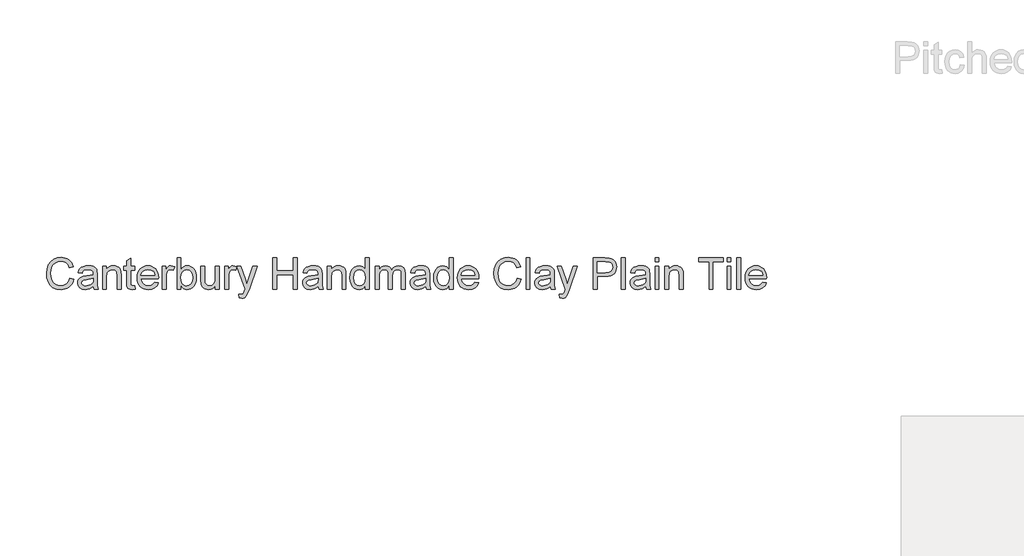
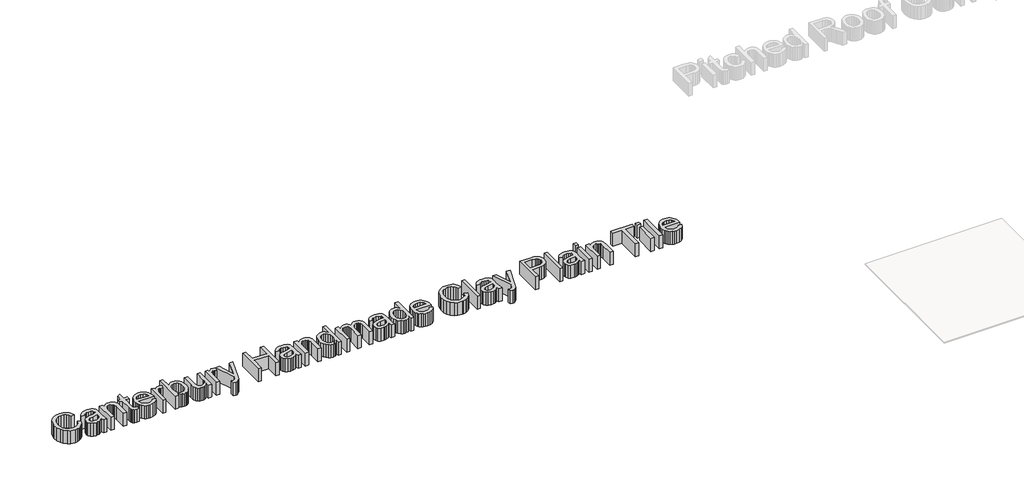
# One storey, part 2 of 3: 1 proxy.
"""IFC4 building model written with IfcOpenShell, lengths in millimetres."""

from ifc_helpers import new_model, si_unit, frame, origin, place, context, project, spatial, polyline, outline, extrude, element, save

model = new_model("IFC4")

# Units and contexts
model_context = context("Model", 3, world=origin())
ifc_project = project(units=[si_unit("LENGTHUNIT", "METRE", prefix="MILLI")], contexts=[model_context])

# Site, building, storey
site = spatial("IfcSite", under=ifc_project)
building = spatial("IfcBuilding", under=site)
storey = spatial("IfcBuildingStorey", under=building, Name="Marley Clay Plain Tile", Elevation=3000.0)

# Proxy
placement = place(None, origin())
element("IfcBuildingElementProxy", 1, Name="600mm Arial", ObjectType="600mm Arial", at=placement, inside=storey, context=model_context, shape_type="SweptSolid", body=[
    extrude(outline(polyline([(-18725.7542253, 5661.3306719), (-18688.8311484, 5651.8114412), (-18696.1373383, 5628.849452), (-18705.868408, 5608.7855998), (-18718.0243575, 5591.6198847), (-18732.6051868, 5577.3523066), (-18749.2818695, 5566.1361106), (-18767.7253791, 5558.1245421), (-18787.9357157, 5553.317601), (-18809.9128791, 5551.7152873), (-18852.7404032, 5556.5650469), (-18886.7518214, 5571.1143258), (-18912.821533, 5594.8583162), (-18931.8239368, 5627.2922104), (-18943.4254993, 5665.42322), (-18947.2926868, 5706.2585566), (-18942.9206916, 5749.32947), (-18929.8047061, 5786.5229796), (-18908.6298262, 5816.658196), (-18880.0811484, 5838.5542296), (-18846.2229753, 5851.8865614), (-18809.1196099, 5856.3306719), (-18768.6358359, 5850.57947), (-18751.0239068, 5843.3904676), (-18735.165283, 5833.3258642), (-18721.3213827, 5820.6515854), (-18709.7536243, 5805.6335566), (-18693.446533, 5768.5662489), (-18730.3696099, 5759.7681719), (-18743.1700907, 5786.6942537), (-18760.6580714, 5805.1648066), (-18783.0498984, 5815.8468979), (-18810.5619176, 5819.407595), (-18842.274658, 5815.4592777), (-18868.3263407, 5803.6143258), (-18888.0949705, 5785.1167296), (-18900.9585522, 5761.2104796), (-18908.0168455, 5734.1852392), (-18910.3696099, 5706.3306719), (-18907.5841532, 5672.220095), (-18899.227783, 5642.7249027), (-18884.9849945, 5618.9718979), (-18864.540283, 5602.0878835), (-18840.0300666, 5592.0007441), (-18813.5907637, 5588.6383642), (-18782.7704512, 5593.2176912), (-18757.0883599, 5606.9556719), (-18737.6983359, 5629.7080758), (-18725.7542253, 5661.3306719)])), frame((0.0, 0.0, 3000.0), z_axis=(0.0, 0.0, 1.0), x_axis=(1.0, 0.0, 0.0)), (0.0, 0.0, 1.0), 150.0),
    extrude(outline(polyline([(-18504.2157637, 5584.0229796), (-18521.8569897, 5568.8967777), (-18540.0210522, 5558.9989412), (-18559.1226147, 5553.5362008), (-18579.5763407, 5551.7152873), (-18610.4327109, 5556.0962969), (-18633.1941291, 5569.2393258), (-18647.2295859, 5589.1972585), (-18651.9080714, 5614.0229796), (-18650.1412445, 5629.32947), (-18644.8407637, 5643.2297104), (-18636.664682, 5655.1287489), (-18626.2710522, 5664.4316335), (-18600.4176868, 5676.5470181), (-18568.4705714, 5682.0999027), (-18530.7181676, 5687.9412489), (-18504.4321099, 5694.7922104), (-18504.2157637, 5703.0133642), (-18506.7578311, 5719.4917296), (-18514.384033, 5730.2729796), (-18531.4393214, 5738.2777873), (-18555.2013407, 5740.9460566), (-18577.196533, 5739.1702152), (-18592.5571099, 5733.8426912), (-18603.0318695, 5723.9899267), (-18610.3696099, 5708.6383642), (-18647.2926868, 5713.2537489), (-18640.883432, 5733.4460566), (-18631.3191291, 5749.3114412), (-18617.7073503, 5761.4448546), (-18599.1556676, 5770.4412489), (-18576.4663647, 5776.0121623), (-18550.4417253, 5777.8691335), (-18525.4807878, 5776.2285085), (-18505.6941291, 5771.3066335), (-18490.7752589, 5763.9057921), (-18480.4176868, 5754.8282681), (-18473.5486964, 5743.6053114), (-18469.0955714, 5729.7681719), (-18467.2926868, 5697.4604796), (-18467.2926868, 5651.5229796), (-18465.4176868, 5587.376345), (-18458.0619176, 5556.3306719), (-18494.9849945, 5556.3306719), (-18504.2157637, 5584.0229796)]), holes=[polyline([(-18504.2157637, 5657.8691335), (-18563.7830714, 5646.5470181), (-18595.5498984, 5640.5614412), (-18609.9369176, 5630.8258642), (-18614.9849945, 5616.6191335), (-18612.2355955, 5605.6395662), (-18603.9873984, 5596.6431719), (-18590.4206916, 5590.6395662), (-18571.7157637, 5588.6383642), (-18551.884033, 5590.8468979), (-18534.3599945, 5597.4724989), (-18520.1532637, 5607.2351191), (-18510.2734561, 5618.8547104), (-18505.8924464, 5630.8258642), (-18504.4321099, 5647.4124027), (-18504.2157637, 5657.8691335)])]), frame((0.0, 0.0, 3000.0), z_axis=(0.0, 0.0, 1.0), x_axis=(1.0, 0.0, 0.0)), (0.0, 0.0, 1.0), 150.0),
    extrude(outline(polyline([(-18416.5234561, 5556.3306719), (-18416.5234561, 5773.2537489), (-18379.6003791, 5773.2537489), (-18379.6003791, 5742.9652873), (-18366.7728551, 5758.23572), (-18351.3672061, 5769.1431719), (-18333.383432, 5775.6876431), (-18312.821533, 5777.8691335), (-18294.6214128, 5776.111321), (-18277.9537445, 5770.8378835), (-18264.0535041, 5762.7068739), (-18254.1556676, 5752.376345), (-18243.0859561, 5725.2249027), (-18241.1388407, 5689.5277873), (-18241.1388407, 5556.3306719), (-18278.0619176, 5556.3306719), (-18278.0619176, 5684.5518258), (-18282.3167253, 5717.220095), (-18288.2031436, 5726.9466575), (-18297.352783, 5734.4917296), (-18309.0805474, 5739.3324748), (-18322.7013407, 5740.9460566), (-18344.3269416, 5737.3222585), (-18362.7614368, 5726.4508642), (-18370.1284741, 5717.5761647), (-18375.3906436, 5705.4472585), (-18379.6003791, 5671.4268258), (-18379.6003791, 5556.3306719), (-18416.5234561, 5556.3306719)])), frame((0.0, 0.0, 3000.0), z_axis=(0.0, 0.0, 1.0), x_axis=(1.0, 0.0, 0.0)), (0.0, 0.0, 1.0), 150.0),
    extrude(outline(polyline([(-18111.9080714, 5587.1239412), (-18107.2926868, 5555.2489412), (-18134.9128791, 5551.7152873), (-18152.6352349, 5553.2477392), (-18165.8503791, 5557.845095), (-18175.1893214, 5564.9304316), (-18181.2830714, 5573.9268258), (-18184.6364368, 5589.3775469), (-18185.7542253, 5615.8258642), (-18185.7542253, 5736.3306719), (-18213.446533, 5736.3306719), (-18213.446533, 5773.2537489), (-18185.7542253, 5773.2537489), (-18185.7542253, 5825.970095), (-18148.8311484, 5847.6768258), (-18148.8311484, 5773.2537489), (-18111.9080714, 5773.2537489), (-18111.9080714, 5736.3306719), (-18148.8311484, 5736.3306719), (-18148.8311484, 5616.907595), (-18146.884033, 5597.8691335), (-18140.5739368, 5591.126345), (-18127.9898022, 5588.6383642), (-18111.9080714, 5587.1239412)])), frame((0.0, 0.0, 3000.0), z_axis=(0.0, 0.0, 1.0), x_axis=(1.0, 0.0, 0.0)), (0.0, 0.0, 1.0), 150.0),
    extrude(outline(polyline([(-17923.1099945, 5620.9460566), (-17886.9080714, 5616.3306719), (-17899.9519416, 5589.0530277), (-17920.7662445, 5568.6624027), (-17948.8822301, 5555.9520662), (-17983.8311484, 5551.7152873), (-18006.7413046, 5553.5429616), (-18027.1544657, 5559.0259844), (-18045.0706315, 5568.1643558), (-18060.4898022, 5580.9580758), (-18072.8891411, 5597.0510746), (-18081.7458118, 5616.0872825), (-18087.0598142, 5638.0666996), (-18088.8311484, 5662.9893258), (-18087.0417854, 5688.7570542), (-18081.6736964, 5711.4688931), (-18072.7268815, 5731.1248426), (-18060.2013407, 5747.7249027), (-18044.8227349, 5760.9130037), (-18027.3167253, 5770.3330758), (-18007.6833118, 5775.9851191), (-17985.9224945, 5777.8691335), (-17964.8625486, 5775.9896263), (-17945.8173262, 5770.3511046), (-17928.7868274, 5760.9535686), (-17913.7710522, 5747.7970181), (-17901.5136904, 5731.2330157), (-17892.758432, 5711.6131239), (-17887.505277, 5688.9373426), (-17885.7542253, 5663.2056719), (-17885.9705714, 5653.2537489), (-18051.9080714, 5653.2537489), (-18045.5168455, 5625.6155277), (-18030.6700907, 5605.2970181), (-18009.242807, 5592.8030277), (-17983.1099945, 5588.6383642), (-17963.4585522, 5590.5674508), (-17946.9080714, 5596.3547104), (-17933.4585522, 5606.36072), (-17923.1099945, 5620.9460566)]), holes=[polyline([(-18051.9080714, 5690.1768258), (-17922.6773022, 5690.1768258), (-17927.6712926, 5709.6840373), (-17937.4609561, 5723.6383642), (-17958.9873984, 5736.6191335), (-17986.0667253, 5740.9460566), (-18010.9555474, 5737.4935325), (-18031.5354753, 5727.1359604), (-18045.8413647, 5710.9911287), (-18051.9080714, 5690.1768258)])]), frame((0.0, 0.0, 3000.0), z_axis=(0.0, 0.0, 1.0), x_axis=(1.0, 0.0, 0.0)), (0.0, 0.0, 1.0), 150.0),
    extrude(outline(polyline([(-17848.8311484, 5556.3306719), (-17848.8311484, 5773.2537489), (-17816.5234561, 5773.2537489), (-17816.5234561, 5741.1624027), (-17804.5883599, 5759.7681719), (-17793.5907637, 5770.7297104), (-17782.5571099, 5776.0842777), (-17770.5138407, 5777.8691335), (-17752.1244176, 5775.0205758), (-17733.446533, 5766.4749027), (-17745.7782637, 5733.3739412), (-17758.759033, 5739.0530277), (-17771.7398022, 5740.9460566), (-17782.7644416, 5739.1251431), (-17792.6172061, 5733.6624027), (-17800.5769416, 5724.9724989), (-17805.9224945, 5713.470095), (-17810.4116772, 5692.845095), (-17811.9080714, 5670.345095), (-17811.9080714, 5556.3306719), (-17848.8311484, 5556.3306719)])), frame((0.0, 0.0, 3000.0), z_axis=(0.0, 0.0, 1.0), x_axis=(1.0, 0.0, 0.0)), (0.0, 0.0, 1.0), 150.0),
    extrude(outline(polyline([(-17673.446533, 5556.3306719), (-17710.3696099, 5556.3306719), (-17710.3696099, 5851.7152873), (-17673.446533, 5851.7152873), (-17673.446533, 5742.1720181), (-17661.3041051, 5757.7895061), (-17647.5931676, 5768.9448546), (-17632.3137205, 5775.6380638), (-17615.4657637, 5777.8691335), (-17596.4453311, 5775.8589171), (-17578.4705714, 5769.8282681), (-17562.5691291, 5760.1557921), (-17549.7686484, 5747.220095), (-17539.7355955, 5731.1473787), (-17532.1364368, 5712.063845), (-17527.3497782, 5690.7627633), (-17525.7542253, 5668.0374027), (-17527.4061183, 5641.814446), (-17532.3617974, 5618.7465373), (-17540.6212625, 5598.8336767), (-17552.1845137, 5582.0758642), (-17566.0644717, 5568.7931118), (-17581.274057, 5559.3054316), (-17597.8132698, 5553.6128234), (-17615.6821099, 5551.7152873), (-17633.0844536, 5554.1627032), (-17648.5126387, 5561.5049508), (-17661.9666652, 5573.7420301), (-17673.446533, 5590.8739412), (-17673.446533, 5556.3306719)]), holes=[polyline([(-17673.446533, 5666.3066335), (-17670.9224945, 5635.5133642), (-17663.3503791, 5614.6720181), (-17654.4035642, 5603.2822945), (-17644.0054272, 5595.1467777), (-17632.1559681, 5590.2654676), (-17618.8551868, 5588.6383642), (-17597.5450907, 5593.4340373), (-17579.3359561, 5607.8210566), (-17566.8419657, 5631.7092777), (-17562.6773022, 5665.0085566), (-17566.6706916, 5698.7946142), (-17578.6508599, 5722.4124027), (-17596.2920859, 5736.3126431), (-17617.2686484, 5740.9460566), (-17638.5787445, 5736.1503835), (-17656.7878791, 5721.7633642), (-17669.2818695, 5698.3078354), (-17673.446533, 5666.3066335)])]), frame((0.0, 0.0, 3000.0), z_axis=(0.0, 0.0, 1.0), x_axis=(1.0, 0.0, 0.0)), (0.0, 0.0, 1.0), 150.0),
    extrude(outline(polyline([(-17345.7542253, 5556.3306719), (-17345.7542253, 5593.6143258), (-17359.1136003, 5575.2834965), (-17374.6724945, 5562.1900469), (-17392.430908, 5554.3339772), (-17412.3888407, 5551.7152873), (-17430.3726147, 5553.5542296), (-17447.1123984, 5559.0710566), (-17461.1568695, 5567.3643258), (-17471.0547061, 5577.532595), (-17482.0523022, 5604.720095), (-17484.2157637, 5639.0470181), (-17484.2157637, 5773.2537489), (-17447.2926868, 5773.2537489), (-17447.2926868, 5656.4268258), (-17445.0571099, 5618.782595), (-17439.6754993, 5606.2255037), (-17430.4537445, 5596.6792296), (-17418.0048262, 5590.6485806), (-17402.9417253, 5588.6383642), (-17387.0132397, 5590.6936527), (-17372.1123984, 5596.8595181), (-17359.8257397, 5606.5680517), (-17351.7398022, 5619.251345), (-17347.2506195, 5636.6221383), (-17345.7542253, 5660.3931719), (-17345.7542253, 5773.2537489), (-17308.8311484, 5773.2537489), (-17308.8311484, 5556.3306719), (-17345.7542253, 5556.3306719)])), frame((0.0, 0.0, 3000.0), z_axis=(0.0, 0.0, 1.0), x_axis=(1.0, 0.0, 0.0)), (0.0, 0.0, 1.0), 150.0),
    extrude(outline(polyline([(-17258.0619176, 5556.3306719), (-17258.0619176, 5773.2537489), (-17225.7542253, 5773.2537489), (-17225.7542253, 5741.1624027), (-17213.8191291, 5759.7681719), (-17202.821533, 5770.7297104), (-17191.7878791, 5776.0842777), (-17179.7446099, 5777.8691335), (-17161.3551868, 5775.0205758), (-17142.6773022, 5766.4749027), (-17155.009033, 5733.3739412), (-17167.9898022, 5739.0530277), (-17180.9705714, 5740.9460566), (-17191.9952109, 5739.1251431), (-17201.8479753, 5733.6624027), (-17209.8077109, 5724.9724989), (-17215.1532637, 5713.470095), (-17219.6424464, 5692.845095), (-17221.1388407, 5670.345095), (-17221.1388407, 5556.3306719), (-17258.0619176, 5556.3306719)])), frame((0.0, 0.0, 3000.0), z_axis=(0.0, 0.0, 1.0), x_axis=(1.0, 0.0, 0.0)), (0.0, 0.0, 1.0), 150.0),
    extrude(outline(polyline([(-17119.6003791, 5473.2537489), (-17124.2157637, 5508.8066335), (-17105.4657637, 5505.5614412), (-17087.9417253, 5509.6359604), (-17077.196533, 5520.9941335), (-17067.1003791, 5548.1816335), (-17064.2157637, 5557.1239412), (-17142.6773022, 5773.2537489), (-17103.7349945, 5773.2537489), (-17062.1244176, 5652.8210566), (-17047.6292253, 5604.6479796), (-17033.134033, 5647.1960566), (-16990.3696099, 5773.2537489), (-16951.7157637, 5773.2537489), (-17027.2205714, 5551.1383642), (-17046.8359561, 5502.9652873), (-17056.8780234, 5487.5866816), (-17068.2542253, 5476.9316335), (-17081.4693695, 5470.7116816), (-17097.0282637, 5468.6383642), (-17119.6003791, 5473.2537489)])), frame((0.0, 0.0, 3000.0), z_axis=(0.0, 0.0, 1.0), x_axis=(1.0, 0.0, 0.0)), (0.0, 0.0, 1.0), 150.0),
    extrude(outline(polyline([(-16801.1388407, 5556.3306719), (-16801.1388407, 5851.7152873), (-16764.2157637, 5851.7152873), (-16764.2157637, 5731.7152873), (-16607.2926868, 5731.7152873), (-16607.2926868, 5851.7152873), (-16570.3696099, 5851.7152873), (-16570.3696099, 5556.3306719), (-16607.2926868, 5556.3306719), (-16607.2926868, 5694.7922104), (-16764.2157637, 5694.7922104), (-16764.2157637, 5556.3306719), (-16801.1388407, 5556.3306719)])), frame((0.0, 0.0, 3000.0), z_axis=(0.0, 0.0, 1.0), x_axis=(1.0, 0.0, 0.0)), (0.0, 0.0, 1.0), 150.0),
    extrude(outline(polyline([(-16371.9080714, 5584.0229796), (-16389.5492974, 5568.8967777), (-16407.7133599, 5558.9989412), (-16426.8149224, 5553.5362008), (-16447.2686484, 5551.7152873), (-16478.1250186, 5556.0962969), (-16500.8864368, 5569.2393258), (-16514.9218936, 5589.1972585), (-16519.6003791, 5614.0229796), (-16517.8335522, 5629.32947), (-16512.5330714, 5643.2297104), (-16504.3569897, 5655.1287489), (-16493.9633599, 5664.4316335), (-16468.1099945, 5676.5470181), (-16436.1628791, 5682.0999027), (-16398.4104753, 5687.9412489), (-16372.1244176, 5694.7922104), (-16371.9080714, 5703.0133642), (-16374.4501387, 5719.4917296), (-16382.0763407, 5730.2729796), (-16399.1316291, 5738.2777873), (-16422.8936484, 5740.9460566), (-16444.8888407, 5739.1702152), (-16460.2494176, 5733.8426912), (-16470.7241772, 5723.9899267), (-16478.0619176, 5708.6383642), (-16514.9849945, 5713.2537489), (-16508.5757397, 5733.4460566), (-16499.0114368, 5749.3114412), (-16485.399658, 5761.4448546), (-16466.8479753, 5770.4412489), (-16444.1586724, 5776.0121623), (-16418.134033, 5777.8691335), (-16393.1730955, 5776.2285085), (-16373.3864368, 5771.3066335), (-16358.4675666, 5763.9057921), (-16348.1099945, 5754.8282681), (-16341.2410041, 5743.6053114), (-16336.7878791, 5729.7681719), (-16334.9849945, 5697.4604796), (-16334.9849945, 5651.5229796), (-16333.1099945, 5587.376345), (-16325.7542253, 5556.3306719), (-16362.6773022, 5556.3306719), (-16371.9080714, 5584.0229796)]), holes=[polyline([(-16371.9080714, 5657.8691335), (-16431.4753791, 5646.5470181), (-16463.2422061, 5640.5614412), (-16477.6292253, 5630.8258642), (-16482.6773022, 5616.6191335), (-16479.9279032, 5605.6395662), (-16471.6797061, 5596.6431719), (-16458.1129993, 5590.6395662), (-16439.4080714, 5588.6383642), (-16419.5763407, 5590.8468979), (-16402.0523022, 5597.4724989), (-16387.8455714, 5607.2351191), (-16377.9657637, 5618.8547104), (-16373.5847541, 5630.8258642), (-16372.1244176, 5647.4124027), (-16371.9080714, 5657.8691335)])]), frame((0.0, 0.0, 3000.0), z_axis=(0.0, 0.0, 1.0), x_axis=(1.0, 0.0, 0.0)), (0.0, 0.0, 1.0), 150.0),
    extrude(outline(polyline([(-16284.2157637, 5556.3306719), (-16284.2157637, 5773.2537489), (-16247.2926868, 5773.2537489), (-16247.2926868, 5742.9652873), (-16234.4651628, 5758.23572), (-16219.0595137, 5769.1431719), (-16201.0757397, 5775.6876431), (-16180.5138407, 5777.8691335), (-16162.3137205, 5776.111321), (-16145.6460522, 5770.8378835), (-16131.7458118, 5762.7068739), (-16121.8479753, 5752.376345), (-16110.7782637, 5725.2249027), (-16108.8311484, 5689.5277873), (-16108.8311484, 5556.3306719), (-16145.7542253, 5556.3306719), (-16145.7542253, 5684.5518258), (-16150.009033, 5717.220095), (-16155.8954512, 5726.9466575), (-16165.0450907, 5734.4917296), (-16176.7728551, 5739.3324748), (-16190.3936484, 5740.9460566), (-16212.0192493, 5737.3222585), (-16230.4537445, 5726.4508642), (-16237.8207818, 5717.5761647), (-16243.0829512, 5705.4472585), (-16247.2926868, 5671.4268258), (-16247.2926868, 5556.3306719), (-16284.2157637, 5556.3306719)])), frame((0.0, 0.0, 3000.0), z_axis=(0.0, 0.0, 1.0), x_axis=(1.0, 0.0, 0.0)), (0.0, 0.0, 1.0), 150.0),
    extrude(outline(polyline([(-15924.2157637, 5556.3306719), (-15924.2157637, 5591.1624027), (-15935.2629392, 5573.9042897), (-15948.6448503, 5561.5770662), (-15964.3614969, 5554.180732), (-15982.4128791, 5551.7152873), (-16006.2830714, 5555.2849989), (-16028.134033, 5565.9941335), (-16046.6316291, 5583.0944941), (-16060.4417253, 5605.8378835), (-16069.0414849, 5633.3048306), (-16071.9080714, 5664.5758642), (-16069.2668455, 5695.4592777), (-16061.3431676, 5723.3499027), (-16048.1460522, 5746.6612008), (-16029.6845137, 5763.8066335), (-16007.3557878, 5774.3535085), (-15982.5571099, 5777.8691335), (-15964.4922061, 5775.3541094), (-15948.5186484, 5767.8090373), (-15934.9789849, 5756.2435325), (-15924.2157637, 5741.6672104), (-15924.2157637, 5851.7152873), (-15887.2926868, 5851.7152873), (-15887.2926868, 5556.3306719), (-15924.2157637, 5556.3306719)]), holes=[polyline([(-16034.9849945, 5664.720095), (-16030.8203311, 5631.3216575), (-16018.3263407, 5607.5686527), (-16000.1712926, 5593.3709364), (-15979.0234561, 5588.6383642), (-15957.8846339, 5593.1545902), (-15940.1893214, 5606.7032681), (-15928.2091532, 5629.5368017), (-15924.2157637, 5661.907595), (-15928.2812686, 5697.29822), (-15940.477783, 5721.8354796), (-15958.6238166, 5736.1684123), (-15980.5378791, 5740.9460566), (-16001.9020618, 5736.3577152), (-16019.4080714, 5722.5926912), (-16031.0907637, 5698.9478594), (-16034.9849945, 5664.720095)])]), frame((0.0, 0.0, 3000.0), z_axis=(0.0, 0.0, 1.0), x_axis=(1.0, 0.0, 0.0)), (0.0, 0.0, 1.0), 150.0),
    extrude(outline(polyline([(-15831.9080714, 5556.3306719), (-15831.9080714, 5773.2537489), (-15794.9849945, 5773.2537489), (-15794.9849945, 5737.5566335), (-15783.8792253, 5753.9538691), (-15769.6003791, 5766.7994219), (-15752.6352349, 5775.1017056), (-15733.4705714, 5777.8691335), (-15712.9357157, 5775.0476191), (-15696.4753791, 5766.5830758), (-15684.1797061, 5753.0343979), (-15676.1388407, 5734.9604796), (-15662.680307, 5753.7330157), (-15647.3287445, 5767.14197), (-15630.0841532, 5775.1873426), (-15610.946533, 5777.8691335), (-15583.1911243, 5773.4069941), (-15562.665283, 5760.0205758), (-15549.9819897, 5737.3493017), (-15545.7542253, 5705.032595), (-15545.7542253, 5556.3306719), (-15582.6773022, 5556.3306719), (-15582.6773022, 5689.1672104), (-15586.102783, 5719.9965373), (-15590.9164849, 5728.4971383), (-15598.5066291, 5735.1768258), (-15608.2692493, 5739.5037489), (-15619.6003791, 5740.9460566), (-15639.6033839, 5737.2501431), (-15655.9104753, 5726.1624027), (-15666.7548262, 5706.9256239), (-15670.3696099, 5678.782595), (-15670.3696099, 5556.3306719), (-15707.2926868, 5556.3306719), (-15707.2926868, 5693.2777873), (-15709.4291051, 5714.1551912), (-15715.8383599, 5729.0470181), (-15727.1154032, 5737.9712969), (-15743.8551868, 5740.9460566), (-15758.0799464, 5738.9628835), (-15771.1869176, 5733.0133642), (-15782.0042253, 5723.2417296), (-15789.3599945, 5709.7922104), (-15793.5787445, 5691.1323546), (-15794.9849945, 5665.7297104), (-15794.9849945, 5556.3306719), (-15831.9080714, 5556.3306719)])), frame((0.0, 0.0, 3000.0), z_axis=(0.0, 0.0, 1.0), x_axis=(1.0, 0.0, 0.0)), (0.0, 0.0, 1.0), 150.0),
    extrude(outline(polyline([(-15351.9080714, 5584.0229796), (-15369.5492974, 5568.8967777), (-15387.7133599, 5558.9989412), (-15406.8149224, 5553.5362008), (-15427.2686484, 5551.7152873), (-15458.1250186, 5556.0962969), (-15480.8864368, 5569.2393258), (-15494.9218936, 5589.1972585), (-15499.6003791, 5614.0229796), (-15497.8335522, 5629.32947), (-15492.5330714, 5643.2297104), (-15484.3569897, 5655.1287489), (-15473.9633599, 5664.4316335), (-15448.1099945, 5676.5470181), (-15416.1628791, 5682.0999027), (-15378.4104753, 5687.9412489), (-15352.1244176, 5694.7922104), (-15351.9080714, 5703.0133642), (-15354.4501387, 5719.4917296), (-15362.0763407, 5730.2729796), (-15379.1316291, 5738.2777873), (-15402.8936484, 5740.9460566), (-15424.8888407, 5739.1702152), (-15440.2494176, 5733.8426912), (-15450.7241772, 5723.9899267), (-15458.0619176, 5708.6383642), (-15494.9849945, 5713.2537489), (-15488.5757397, 5733.4460566), (-15479.0114368, 5749.3114412), (-15465.399658, 5761.4448546), (-15446.8479753, 5770.4412489), (-15424.1586724, 5776.0121623), (-15398.134033, 5777.8691335), (-15373.1730955, 5776.2285085), (-15353.3864368, 5771.3066335), (-15338.4675666, 5763.9057921), (-15328.1099945, 5754.8282681), (-15321.2410041, 5743.6053114), (-15316.7878791, 5729.7681719), (-15314.9849945, 5697.4604796), (-15314.9849945, 5651.5229796), (-15313.1099945, 5587.376345), (-15305.7542253, 5556.3306719), (-15342.6773022, 5556.3306719), (-15351.9080714, 5584.0229796)]), holes=[polyline([(-15351.9080714, 5657.8691335), (-15411.4753791, 5646.5470181), (-15443.2422061, 5640.5614412), (-15457.6292253, 5630.8258642), (-15462.6773022, 5616.6191335), (-15459.9279032, 5605.6395662), (-15451.6797061, 5596.6431719), (-15438.1129993, 5590.6395662), (-15419.4080714, 5588.6383642), (-15399.5763407, 5590.8468979), (-15382.0523022, 5597.4724989), (-15367.8455714, 5607.2351191), (-15357.9657637, 5618.8547104), (-15353.5847541, 5630.8258642), (-15352.1244176, 5647.4124027), (-15351.9080714, 5657.8691335)])]), frame((0.0, 0.0, 3000.0), z_axis=(0.0, 0.0, 1.0), x_axis=(1.0, 0.0, 0.0)), (0.0, 0.0, 1.0), 150.0),
    extrude(outline(polyline([(-15130.3696099, 5556.3306719), (-15130.3696099, 5591.1624027), (-15141.4167854, 5573.9042897), (-15154.7986964, 5561.5770662), (-15170.5153431, 5554.180732), (-15188.5667253, 5551.7152873), (-15212.4369176, 5555.2849989), (-15234.2878791, 5565.9941335), (-15252.7854753, 5583.0944941), (-15266.5955714, 5605.8378835), (-15275.1953311, 5633.3048306), (-15278.0619176, 5664.5758642), (-15275.4206916, 5695.4592777), (-15267.4970137, 5723.3499027), (-15254.2998984, 5746.6612008), (-15235.8383599, 5763.8066335), (-15213.5096339, 5774.3535085), (-15188.7109561, 5777.8691335), (-15170.6460522, 5775.3541094), (-15154.6724945, 5767.8090373), (-15141.1328311, 5756.2435325), (-15130.3696099, 5741.6672104), (-15130.3696099, 5851.7152873), (-15093.446533, 5851.7152873), (-15093.446533, 5556.3306719), (-15130.3696099, 5556.3306719)]), holes=[polyline([(-15241.1388407, 5664.720095), (-15236.9741772, 5631.3216575), (-15224.4801868, 5607.5686527), (-15206.3251387, 5593.3709364), (-15185.1773022, 5588.6383642), (-15164.0384801, 5593.1545902), (-15146.3431676, 5606.7032681), (-15134.3629993, 5629.5368017), (-15130.3696099, 5661.907595), (-15134.4351147, 5697.29822), (-15146.6316291, 5721.8354796), (-15164.7776628, 5736.1684123), (-15186.6917253, 5740.9460566), (-15208.055908, 5736.3577152), (-15225.5619176, 5722.5926912), (-15237.2446099, 5698.9478594), (-15241.1388407, 5664.720095)])]), frame((0.0, 0.0, 3000.0), z_axis=(0.0, 0.0, 1.0), x_axis=(1.0, 0.0, 0.0)), (0.0, 0.0, 1.0), 150.0),
    extrude(outline(polyline([(-14886.1869176, 5620.9460566), (-14849.9849945, 5616.3306719), (-14863.0288647, 5589.0530277), (-14883.8431676, 5568.6624027), (-14911.9591532, 5555.9520662), (-14946.9080714, 5551.7152873), (-14969.8182277, 5553.5429616), (-14990.2313887, 5559.0259844), (-15008.1475546, 5568.1643558), (-15023.5667253, 5580.9580758), (-15035.9660642, 5597.0510746), (-15044.8227349, 5616.0872825), (-15050.1367373, 5638.0666996), (-15051.9080714, 5662.9893258), (-15050.1187085, 5688.7570542), (-15044.7506195, 5711.4688931), (-15035.8038046, 5731.1248426), (-15023.2782637, 5747.7249027), (-15007.899658, 5760.9130037), (-14990.3936484, 5770.3330758), (-14970.7602349, 5775.9851191), (-14948.9994176, 5777.8691335), (-14927.9394717, 5775.9896263), (-14908.8942493, 5770.3511046), (-14891.8637505, 5760.9535686), (-14876.8479753, 5747.7970181), (-14864.5906135, 5731.2330157), (-14855.8353551, 5711.6131239), (-14850.5822, 5688.9373426), (-14848.8311484, 5663.2056719), (-14849.0474945, 5653.2537489), (-15014.9849945, 5653.2537489), (-15008.5937686, 5625.6155277), (-14993.7470137, 5605.2970181), (-14972.3197301, 5592.8030277), (-14946.1869176, 5588.6383642), (-14926.5354753, 5590.5674508), (-14909.9849945, 5596.3547104), (-14896.5354753, 5606.36072), (-14886.1869176, 5620.9460566)]), holes=[polyline([(-15014.9849945, 5690.1768258), (-14885.7542253, 5690.1768258), (-14890.7482157, 5709.6840373), (-14900.5378791, 5723.6383642), (-14922.0643214, 5736.6191335), (-14949.1436484, 5740.9460566), (-14974.0324705, 5737.4935325), (-14994.6123984, 5727.1359604), (-15008.9182878, 5710.9911287), (-15014.9849945, 5690.1768258)])]), frame((0.0, 0.0, 3000.0), z_axis=(0.0, 0.0, 1.0), x_axis=(1.0, 0.0, 0.0)), (0.0, 0.0, 1.0), 150.0),
    extrude(outline(polyline([(-14484.2157637, 5661.3306719), (-14447.2926868, 5651.8114412), (-14454.5988767, 5628.849452), (-14464.3299464, 5608.7855998), (-14476.485896, 5591.6198847), (-14491.0667253, 5577.3523066), (-14507.743408, 5566.1361106), (-14526.1869176, 5558.1245421), (-14546.3972541, 5553.317601), (-14568.3744176, 5551.7152873), (-14611.2019416, 5556.5650469), (-14645.2133599, 5571.1143258), (-14671.2830714, 5594.8583162), (-14690.2854753, 5627.2922104), (-14701.8870378, 5665.42322), (-14705.7542253, 5706.2585566), (-14701.3822301, 5749.32947), (-14688.2662445, 5786.5229796), (-14667.0913647, 5816.658196), (-14638.5426868, 5838.5542296), (-14604.6845137, 5851.8865614), (-14567.5811484, 5856.3306719), (-14527.0973743, 5850.57947), (-14509.4854452, 5843.3904676), (-14493.6268214, 5833.3258642), (-14479.7829212, 5820.6515854), (-14468.2151628, 5805.6335566), (-14451.9080714, 5768.5662489), (-14488.8311484, 5759.7681719), (-14501.6316291, 5786.6942537), (-14519.1196099, 5805.1648066), (-14541.5114368, 5815.8468979), (-14569.0234561, 5819.407595), (-14600.7361964, 5815.4592777), (-14626.7878791, 5803.6143258), (-14646.5565089, 5785.1167296), (-14659.4200907, 5761.2104796), (-14666.4783839, 5734.1852392), (-14668.8311484, 5706.3306719), (-14666.0456916, 5672.220095), (-14657.6893214, 5642.7249027), (-14643.446533, 5618.9718979), (-14623.0018214, 5602.0878835), (-14598.4916051, 5592.0007441), (-14572.0523022, 5588.6383642), (-14541.2319897, 5593.2176912), (-14515.5498984, 5606.9556719), (-14496.1598743, 5629.7080758), (-14484.2157637, 5661.3306719)])), frame((0.0, 0.0, 3000.0), z_axis=(0.0, 0.0, 1.0), x_axis=(1.0, 0.0, 0.0)), (0.0, 0.0, 1.0), 150.0),
    extrude(outline(polyline([(-14401.1388407, 5556.3306719), (-14401.1388407, 5851.7152873), (-14364.2157637, 5851.7152873), (-14364.2157637, 5556.3306719), (-14401.1388407, 5556.3306719)])), frame((0.0, 0.0, 3000.0), z_axis=(0.0, 0.0, 1.0), x_axis=(1.0, 0.0, 0.0)), (0.0, 0.0, 1.0), 150.0),
    extrude(outline(polyline([(-14170.3696099, 5584.0229796), (-14188.0108359, 5568.8967777), (-14206.1748984, 5558.9989412), (-14225.2764609, 5553.5362008), (-14245.7301868, 5551.7152873), (-14276.586557, 5556.0962969), (-14299.3479753, 5569.2393258), (-14313.383432, 5589.1972585), (-14318.0619176, 5614.0229796), (-14316.2950907, 5629.32947), (-14310.9946099, 5643.2297104), (-14302.8185282, 5655.1287489), (-14292.4248984, 5664.4316335), (-14266.571533, 5676.5470181), (-14234.6244176, 5682.0999027), (-14196.8720137, 5687.9412489), (-14170.5859561, 5694.7922104), (-14170.3696099, 5703.0133642), (-14172.9116772, 5719.4917296), (-14180.5378791, 5730.2729796), (-14197.5931676, 5738.2777873), (-14221.3551868, 5740.9460566), (-14243.3503791, 5739.1702152), (-14258.7109561, 5733.8426912), (-14269.1857157, 5723.9899267), (-14276.5234561, 5708.6383642), (-14313.446533, 5713.2537489), (-14307.0372782, 5733.4460566), (-14297.4729753, 5749.3114412), (-14283.8611964, 5761.4448546), (-14265.3095137, 5770.4412489), (-14242.6202109, 5776.0121623), (-14216.5955714, 5777.8691335), (-14191.6346339, 5776.2285085), (-14171.8479753, 5771.3066335), (-14156.9291051, 5763.9057921), (-14146.571533, 5754.8282681), (-14139.7025426, 5743.6053114), (-14135.2494176, 5729.7681719), (-14133.446533, 5697.4604796), (-14133.446533, 5651.5229796), (-14131.571533, 5587.376345), (-14124.2157637, 5556.3306719), (-14161.1388407, 5556.3306719), (-14170.3696099, 5584.0229796)]), holes=[polyline([(-14170.3696099, 5657.8691335), (-14229.9369176, 5646.5470181), (-14261.7037445, 5640.5614412), (-14276.0907637, 5630.8258642), (-14281.1388407, 5616.6191335), (-14278.3894416, 5605.6395662), (-14270.1412445, 5596.6431719), (-14256.5745378, 5590.6395662), (-14237.8696099, 5588.6383642), (-14218.0378791, 5590.8468979), (-14200.5138407, 5597.4724989), (-14186.3071099, 5607.2351191), (-14176.4273022, 5618.8547104), (-14172.0462926, 5630.8258642), (-14170.5859561, 5647.4124027), (-14170.3696099, 5657.8691335)])]), frame((0.0, 0.0, 3000.0), z_axis=(0.0, 0.0, 1.0), x_axis=(1.0, 0.0, 0.0)), (0.0, 0.0, 1.0), 150.0),
    extrude(outline(polyline([(-14082.6773022, 5473.2537489), (-14087.2926868, 5508.8066335), (-14068.5426868, 5505.5614412), (-14051.0186484, 5509.6359604), (-14040.2734561, 5520.9941335), (-14030.1773022, 5548.1816335), (-14027.2926868, 5557.1239412), (-14105.7542253, 5773.2537489), (-14066.8119176, 5773.2537489), (-14025.2013407, 5652.8210566), (-14010.7061484, 5604.6479796), (-13996.2109561, 5647.1960566), (-13953.446533, 5773.2537489), (-13914.7926868, 5773.2537489), (-13990.2974945, 5551.1383642), (-14009.9128791, 5502.9652873), (-14019.9549464, 5487.5866816), (-14031.3311484, 5476.9316335), (-14044.5462926, 5470.7116816), (-14060.1051868, 5468.6383642), (-14082.6773022, 5473.2537489)])), frame((0.0, 0.0, 3000.0), z_axis=(0.0, 0.0, 1.0), x_axis=(1.0, 0.0, 0.0)), (0.0, 0.0, 1.0), 150.0),
    extrude(outline(polyline([(-13764.2157637, 5556.3306719), (-13764.2157637, 5851.7152873), (-13654.7446099, 5851.7152873), (-13610.6099945, 5848.9027873), (-13590.9315089, 5843.6473787), (-13574.7325907, 5835.0926912), (-13561.6887205, 5822.8511046), (-13551.4753791, 5806.5349989), (-13544.8768214, 5787.2892056), (-13542.6773022, 5766.2585566), (-13548.617807, 5731.4448546), (-13556.043438, 5716.2149868), (-13566.4393214, 5702.4364412), (-13580.7114068, 5691.0151671), (-13599.7656436, 5682.8571142), (-13623.6020318, 5677.9622825), (-13652.2205714, 5676.3306719), (-13727.2926868, 5676.3306719), (-13727.2926868, 5556.3306719), (-13764.2157637, 5556.3306719)]), holes=[polyline([(-13727.2926868, 5713.2537489), (-13650.0571099, 5713.2537489), (-13617.3167253, 5716.6431719), (-13595.6821099, 5726.8114412), (-13583.6208118, 5743.1275469), (-13579.6003791, 5764.9604796), (-13581.9711724, 5781.5470181), (-13589.0835522, 5795.5374027), (-13600.0541051, 5806.0662489), (-13613.9994176, 5812.2681719), (-13650.9224945, 5814.7922104), (-13727.2926868, 5814.7922104), (-13727.2926868, 5713.2537489)])]), frame((0.0, 0.0, 3000.0), z_axis=(0.0, 0.0, 1.0), x_axis=(1.0, 0.0, 0.0)), (0.0, 0.0, 1.0), 150.0),
    extrude(outline(polyline([(-13496.5234561, 5556.3306719), (-13496.5234561, 5851.7152873), (-13459.6003791, 5851.7152873), (-13459.6003791, 5556.3306719), (-13496.5234561, 5556.3306719)])), frame((0.0, 0.0, 3000.0), z_axis=(0.0, 0.0, 1.0), x_axis=(1.0, 0.0, 0.0)), (0.0, 0.0, 1.0), 150.0),
    extrude(outline(polyline([(-13265.7542253, 5584.0229796), (-13283.3954512, 5568.8967777), (-13301.5595137, 5558.9989412), (-13320.6610762, 5553.5362008), (-13341.1148022, 5551.7152873), (-13371.9711724, 5556.0962969), (-13394.7325907, 5569.2393258), (-13408.7680474, 5589.1972585), (-13413.446533, 5614.0229796), (-13411.6797061, 5629.32947), (-13406.3792253, 5643.2297104), (-13398.2031436, 5655.1287489), (-13387.8095137, 5664.4316335), (-13361.9561484, 5676.5470181), (-13330.009033, 5682.0999027), (-13292.2566291, 5687.9412489), (-13265.9705714, 5694.7922104), (-13265.7542253, 5703.0133642), (-13268.2962926, 5719.4917296), (-13275.9224945, 5730.2729796), (-13292.977783, 5738.2777873), (-13316.7398022, 5740.9460566), (-13338.7349945, 5739.1702152), (-13354.0955714, 5733.8426912), (-13364.5703311, 5723.9899267), (-13371.9080714, 5708.6383642), (-13408.8311484, 5713.2537489), (-13402.4218936, 5733.4460566), (-13392.8575907, 5749.3114412), (-13379.2458118, 5761.4448546), (-13360.6941291, 5770.4412489), (-13338.0048262, 5776.0121623), (-13311.9801868, 5777.8691335), (-13287.0192493, 5776.2285085), (-13267.2325907, 5771.3066335), (-13252.3137205, 5763.9057921), (-13241.9561484, 5754.8282681), (-13235.087158, 5743.6053114), (-13230.634033, 5729.7681719), (-13228.8311484, 5697.4604796), (-13228.8311484, 5651.5229796), (-13226.9561484, 5587.376345), (-13219.6003791, 5556.3306719), (-13256.5234561, 5556.3306719), (-13265.7542253, 5584.0229796)]), holes=[polyline([(-13265.7542253, 5657.8691335), (-13325.321533, 5646.5470181), (-13357.0883599, 5640.5614412), (-13371.4753791, 5630.8258642), (-13376.5234561, 5616.6191335), (-13373.774057, 5605.6395662), (-13365.5258599, 5596.6431719), (-13351.9591532, 5590.6395662), (-13333.2542253, 5588.6383642), (-13313.4224945, 5590.8468979), (-13295.8984561, 5597.4724989), (-13281.6917253, 5607.2351191), (-13271.8119176, 5618.8547104), (-13267.430908, 5630.8258642), (-13265.9705714, 5647.4124027), (-13265.7542253, 5657.8691335)])]), frame((0.0, 0.0, 3000.0), z_axis=(0.0, 0.0, 1.0), x_axis=(1.0, 0.0, 0.0)), (0.0, 0.0, 1.0), 150.0),
    extrude(outline(polyline([(-13178.0619176, 5556.3306719), (-13178.0619176, 5773.2537489), (-13141.1388407, 5773.2537489), (-13141.1388407, 5556.3306719), (-13178.0619176, 5556.3306719)])), frame((0.0, 0.0, 3000.0), z_axis=(0.0, 0.0, 1.0), x_axis=(1.0, 0.0, 0.0)), (0.0, 0.0, 1.0), 150.0),
    extrude(outline(polyline([(-13178.0619176, 5814.7922104), (-13178.0619176, 5851.7152873), (-13141.1388407, 5851.7152873), (-13141.1388407, 5814.7922104), (-13178.0619176, 5814.7922104)])), frame((0.0, 0.0, 3000.0), z_axis=(0.0, 0.0, 1.0), x_axis=(1.0, 0.0, 0.0)), (0.0, 0.0, 1.0), 150.0),
    extrude(outline(polyline([(-13085.7542253, 5556.3306719), (-13085.7542253, 5773.2537489), (-13048.8311484, 5773.2537489), (-13048.8311484, 5742.9652873), (-13036.0036243, 5758.23572), (-13020.5979753, 5769.1431719), (-13002.6142012, 5775.6876431), (-12982.0523022, 5777.8691335), (-12963.852182, 5776.111321), (-12947.1845137, 5770.8378835), (-12933.2842734, 5762.7068739), (-12923.3864368, 5752.376345), (-12912.3167253, 5725.2249027), (-12910.3696099, 5689.5277873), (-12910.3696099, 5556.3306719), (-12947.2926868, 5556.3306719), (-12947.2926868, 5684.5518258), (-12951.5474945, 5717.220095), (-12957.4339128, 5726.9466575), (-12966.5835522, 5734.4917296), (-12978.3113166, 5739.3324748), (-12991.9321099, 5740.9460566), (-13013.5577109, 5737.3222585), (-13031.9922061, 5726.4508642), (-13039.3592433, 5717.5761647), (-13044.6214128, 5705.4472585), (-13048.8311484, 5671.4268258), (-13048.8311484, 5556.3306719), (-13085.7542253, 5556.3306719)])), frame((0.0, 0.0, 3000.0), z_axis=(0.0, 0.0, 1.0), x_axis=(1.0, 0.0, 0.0)), (0.0, 0.0, 1.0), 150.0),
    extrude(outline(polyline([(-12665.7542253, 5556.3306719), (-12665.7542253, 5814.7922104), (-12762.6773022, 5814.7922104), (-12762.6773022, 5851.7152873), (-12531.9080714, 5851.7152873), (-12531.9080714, 5814.7922104), (-12628.8311484, 5814.7922104), (-12628.8311484, 5556.3306719), (-12665.7542253, 5556.3306719)])), frame((0.0, 0.0, 3000.0), z_axis=(0.0, 0.0, 1.0), x_axis=(1.0, 0.0, 0.0)), (0.0, 0.0, 1.0), 150.0),
    extrude(outline(polyline([(-12494.9849945, 5556.3306719), (-12494.9849945, 5773.2537489), (-12458.0619176, 5773.2537489), (-12458.0619176, 5556.3306719), (-12494.9849945, 5556.3306719)])), frame((0.0, 0.0, 3000.0), z_axis=(0.0, 0.0, 1.0), x_axis=(1.0, 0.0, 0.0)), (0.0, 0.0, 1.0), 150.0),
    extrude(outline(polyline([(-12494.9849945, 5814.7922104), (-12494.9849945, 5851.7152873), (-12458.0619176, 5851.7152873), (-12458.0619176, 5814.7922104), (-12494.9849945, 5814.7922104)])), frame((0.0, 0.0, 3000.0), z_axis=(0.0, 0.0, 1.0), x_axis=(1.0, 0.0, 0.0)), (0.0, 0.0, 1.0), 150.0),
    extrude(outline(polyline([(-12402.6773022, 5556.3306719), (-12402.6773022, 5851.7152873), (-12365.7542253, 5851.7152873), (-12365.7542253, 5556.3306719), (-12402.6773022, 5556.3306719)])), frame((0.0, 0.0, 3000.0), z_axis=(0.0, 0.0, 1.0), x_axis=(1.0, 0.0, 0.0)), (0.0, 0.0, 1.0), 150.0),
    extrude(outline(polyline([(-12158.4946099, 5620.9460566), (-12122.2926868, 5616.3306719), (-12135.336557, 5589.0530277), (-12156.1508599, 5568.6624027), (-12184.2668455, 5555.9520662), (-12219.2157637, 5551.7152873), (-12242.12592, 5553.5429616), (-12262.5390811, 5559.0259844), (-12280.4552469, 5568.1643558), (-12295.8744176, 5580.9580758), (-12308.2737565, 5597.0510746), (-12317.1304272, 5616.0872825), (-12322.4444296, 5638.0666996), (-12324.2157637, 5662.9893258), (-12322.4264008, 5688.7570542), (-12317.0583118, 5711.4688931), (-12308.1114969, 5731.1248426), (-12295.5859561, 5747.7249027), (-12280.2073503, 5760.9130037), (-12262.7013407, 5770.3330758), (-12243.0679272, 5775.9851191), (-12221.3071099, 5777.8691335), (-12200.247164, 5775.9896263), (-12181.2019416, 5770.3511046), (-12164.1714428, 5760.9535686), (-12149.1556676, 5747.7970181), (-12136.8983058, 5731.2330157), (-12128.1430474, 5711.6131239), (-12122.8898924, 5688.9373426), (-12121.1388407, 5663.2056719), (-12121.3551868, 5653.2537489), (-12287.2926868, 5653.2537489), (-12280.9014609, 5625.6155277), (-12266.0547061, 5605.2970181), (-12244.6274224, 5592.8030277), (-12218.4946099, 5588.6383642), (-12198.8431676, 5590.5674508), (-12182.2926868, 5596.3547104), (-12168.8431676, 5606.36072), (-12158.4946099, 5620.9460566)]), holes=[polyline([(-12287.2926868, 5690.1768258), (-12158.0619176, 5690.1768258), (-12163.055908, 5709.6840373), (-12172.8455714, 5723.6383642), (-12194.3720137, 5736.6191335), (-12221.4513407, 5740.9460566), (-12246.3401628, 5737.4935325), (-12266.9200907, 5727.1359604), (-12281.2259801, 5710.9911287), (-12287.2926868, 5690.1768258)])]), frame((0.0, 0.0, 3000.0), z_axis=(0.0, 0.0, 1.0), x_axis=(1.0, 0.0, 0.0)), (0.0, 0.0, 1.0), 150.0),
])

save(model, "model.ifc")
